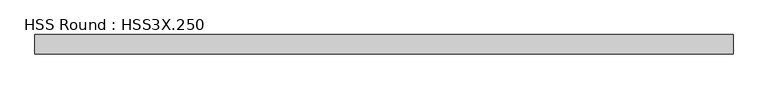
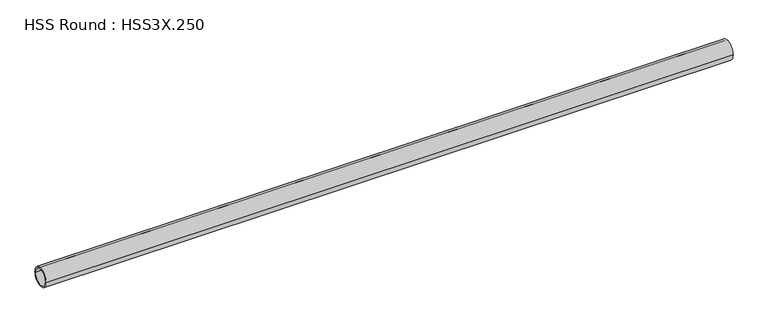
"""IFC4 building model written with IfcOpenShell, lengths in millimetres: member geometry, HSS Round : HSS3X.250."""

from ifc_helpers import new_model, si_unit, point, frame, origin, origin_2d, place, context, project, spatial, circle_curve, trimmed, segment, composite_curve, outline, extrude, source, transform, mapped, element, save


def hss_round_hss3x_250_61c3d1cc(model_context):
    return source(origin(), model_context, "Body", "SweptSolid", [
        extrude(outline(composite_curve([segment(trimmed(circle_curve(origin_2d(), 38.1), [point((-38.1, 0.0))], [point((38.1, 0.0))], False, "CARTESIAN"), True, "CONTINUOUS"), segment(trimmed(circle_curve(origin_2d(), 38.1), [point((38.1, 0.0))], [point((-38.1, 0.0))], False, "CARTESIAN"), True, "CONTINUOUS")], self_intersect=False), holes=[composite_curve([segment(trimmed(circle_curve(origin_2d(), 31.75), [point((31.75, 0.0))], [point((-31.75, 0.0))], True, "CARTESIAN"), True, "CONTINUOUS"), segment(trimmed(circle_curve(origin_2d(), 31.75), [point((-31.75, 0.0))], [point((31.75, 0.0))], True, "CARTESIAN"), True, "CONTINUOUS")], self_intersect=False)]), frame((-1406.2165499, 0.0, 0.0), z_axis=(1.0, 0.0, 0.0), x_axis=(0.0, 1.0, 0.0)), (0.0, 0.0, 1.0), 2729.7830499),
    ])


if __name__ == "__main__":
    model = new_model("IFC4")
    model_context = context("Model", 3, world=origin())
    ifc_project = project(units=[si_unit("LENGTHUNIT", "METRE", prefix="MILLI")], contexts=[model_context])
    site = spatial("IfcSite", under=ifc_project)
    building = spatial("IfcBuilding", under=site)
    placement = place(None, origin())
    hss_round_hss3x_250_shape = hss_round_hss3x_250_61c3d1cc(model_context)
    element("IfcMember", 1, ObjectType="HSS Round : HSS3X.250", at=placement, inside=building, context=model_context, shape_type="MappedRepresentation", body=[
        mapped(hss_round_hss3x_250_shape, transform((0.0, 0.0, 0.0), x_axis=(1.0, 0.0, 0.0), y_axis=(0.0, 1.0, 0.0), z_axis=(0.0, 0.0, 1.0))),
    ])
    save(model, "model.ifc")
